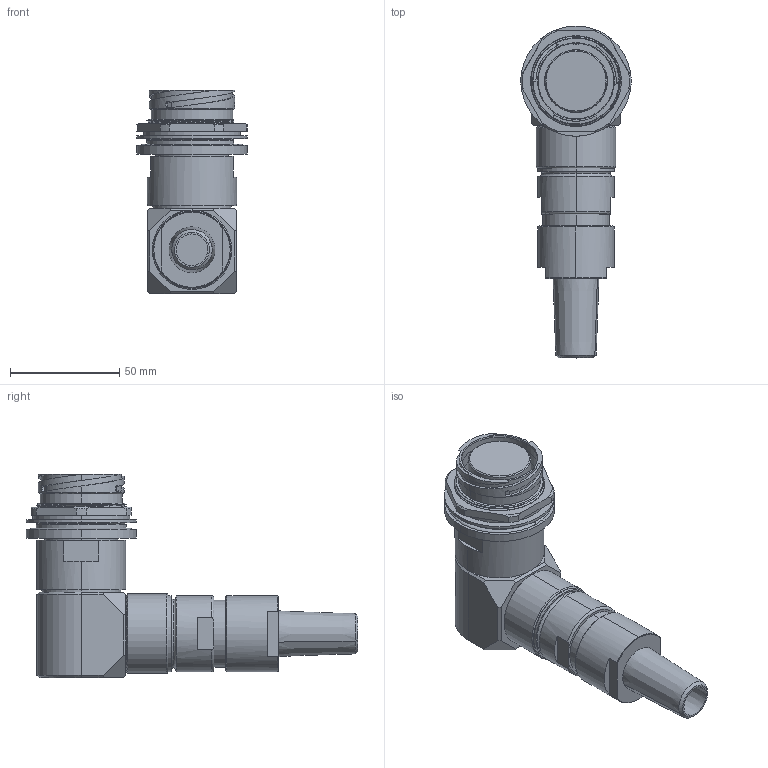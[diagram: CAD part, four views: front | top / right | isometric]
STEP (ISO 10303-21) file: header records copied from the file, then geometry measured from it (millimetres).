
FILE_DESCRIPTION (( 'STEP AP214' ), '1' );
FILE_NAME ('QLINK90-RJBX-23XX-SXXX-RA.STEP', '2025-12-17T15:39:52', ( '' ), ( '' ), 'SwSTEP 2.0', 'SolidWorks 2024', '' );
FILE_SCHEMA (( 'AUTOMOTIVE_DESIGN' ));
Length unit declared in the file: millimetre
Products named in the file (1): QLINK90-RJBX-23XX-SXXX-RA
Bounding box: 50.55 x 152.08 x 93.22 mm (x, y, z)
Volume: 193920.9 mm3; surface area: 42531.7 mm2
Topology: 2 solids, 4 shells, 313 faces, 794 edges, 509 vertices
Faces by surface type: cylinder 90, plane 84, cone 60, bspline 56, torus 23
Entity records: 24482 total; most frequent: CARTESIAN_POINT 17539, ORIENTED_EDGE 1588, DIRECTION 1297, EDGE_CURVE 794, AXIS2_PLACEMENT_3D 526, VERTEX_POINT 509, EDGE_LOOP 343, ADVANCED_FACE 313
